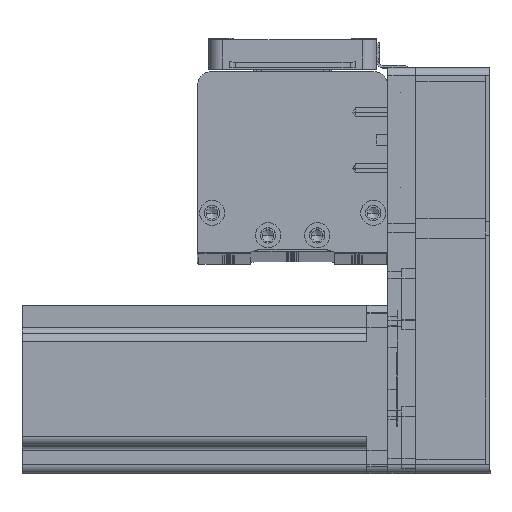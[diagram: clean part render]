
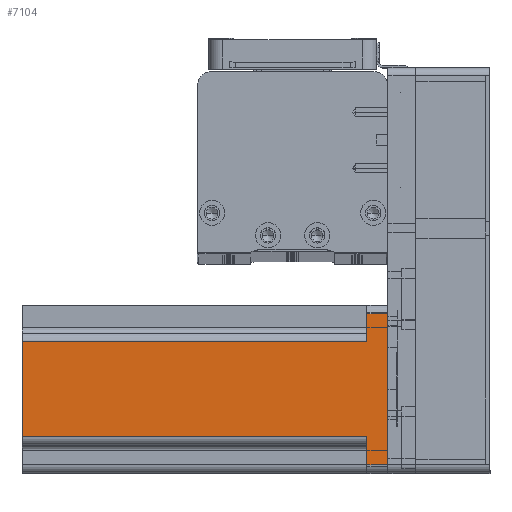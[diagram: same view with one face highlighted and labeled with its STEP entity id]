
A CAD part, top view. The second image highlights one B-rep face of the part: STEP entity #7104.
In plain terms, the highlighted planar face has unit normal (0, 0, 1) as drawn and (0, 1, 0) by its records, which use the part's own axes.
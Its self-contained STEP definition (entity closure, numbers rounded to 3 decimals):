
#1506 = LINE ( 'NONE', #42874, #47745 ) ;
#1839 = AXIS2_PLACEMENT_3D ( 'NONE', #47738, #20991, #52197 ) ;
#5105 = DIRECTION ( 'NONE',  ( -1., 0., 0. ) ) ;
#5916 = CARTESIAN_POINT ( 'NONE',  ( 30., 30., 0. ) ) ;
#5933 = LINE ( 'NONE', #16059, #16498 ) ;
#6462 = ORIENTED_EDGE ( 'NONE', *, *, #21462, .F. ) ;
#7104 = ADVANCED_FACE ( 'NONE', ( #29800 ), #25306, .F. ) ;
#7438 = EDGE_CURVE ( 'NONE', #50984, #22405, #17817, .T. ) ;
#8602 = LINE ( 'NONE', #41020, #41438 ) ;
#10445 = DIRECTION ( 'NONE',  ( -1., 0., 0. ) ) ;
#11262 = CARTESIAN_POINT ( 'NONE',  ( 17., 30., 130.7 ) ) ;
#11634 = LINE ( 'NONE', #14173, #45860 ) ;
#13226 = EDGE_CURVE ( 'NONE', #27347, #50984, #25882, .T. ) ;
#13963 = VECTOR ( 'NONE', #29578, 1000. ) ;
#14024 = ORIENTED_EDGE ( 'NONE', *, *, #7438, .T. ) ;
#14173 = CARTESIAN_POINT ( 'NONE',  ( 30., 30., 130.7 ) ) ;
#15234 = EDGE_LOOP ( 'NONE', ( #49638, #14024, #6462, #48928, #25208, #34895, #22312, #17222 ) ) ;
#16059 = CARTESIAN_POINT ( 'NONE',  ( 17., 30., 130.7 ) ) ;
#16498 = VECTOR ( 'NONE', #25068, 1000. ) ;
#17222 = ORIENTED_EDGE ( 'NONE', *, *, #51425, .T. ) ;
#17817 = LINE ( 'NONE', #45894, #52054 ) ;
#17842 = VERTEX_POINT ( 'NONE', #44180 ) ;
#18998 = EDGE_CURVE ( 'NONE', #44352, #24527, #5933, .T. ) ;
#19162 = CARTESIAN_POINT ( 'NONE',  ( 27., 30., 7.5 ) ) ;
#20586 = CARTESIAN_POINT ( 'NONE',  ( -20., 30., 7.5 ) ) ;
#20661 = EDGE_CURVE ( 'NONE', #35178, #17842, #32124, .T. ) ;
#20991 = DIRECTION ( 'NONE',  ( 0., -1., 0. ) ) ;
#21462 = EDGE_CURVE ( 'NONE', #44352, #22405, #11634, .T. ) ;
#21543 = DIRECTION ( 'NONE',  ( 0., 0., -1. ) ) ;
#22312 = ORIENTED_EDGE ( 'NONE', *, *, #24514, .T. ) ;
#22405 = VERTEX_POINT ( 'NONE', #30522 ) ;
#24514 = EDGE_CURVE ( 'NONE', #17842, #32543, #37071, .T. ) ;
#24527 = VERTEX_POINT ( 'NONE', #33143 ) ;
#25068 = DIRECTION ( 'NONE',  ( 0., 0., -1. ) ) ;
#25111 = DIRECTION ( 'NONE',  ( 0., 0., 1. ) ) ;
#25208 = ORIENTED_EDGE ( 'NONE', *, *, #35108, .F. ) ;
#25306 = PLANE ( 'NONE',  #1839 ) ;
#25506 = CARTESIAN_POINT ( 'NONE',  ( -27., 30., 0. ) ) ;
#25882 = LINE ( 'NONE', #20586, #13963 ) ;
#26322 = CARTESIAN_POINT ( 'NONE',  ( -17., 30., 7.5 ) ) ;
#27347 = VERTEX_POINT ( 'NONE', #50461 ) ;
#29578 = DIRECTION ( 'NONE',  ( 1., 0., 0. ) ) ;
#29800 = FACE_OUTER_BOUND ( 'NONE', #15234, .T. ) ;
#30522 = CARTESIAN_POINT ( 'NONE',  ( -17., 30., 130.7 ) ) ;
#32124 = LINE ( 'NONE', #48454, #54479 ) ;
#32268 = DIRECTION ( 'NONE',  ( -1., 0., 0. ) ) ;
#32543 = VERTEX_POINT ( 'NONE', #25506 ) ;
#32648 = DIRECTION ( 'NONE',  ( 0., 0., 1. ) ) ;
#33143 = CARTESIAN_POINT ( 'NONE',  ( 17., 30., 7.5 ) ) ;
#34895 = ORIENTED_EDGE ( 'NONE', *, *, #20661, .T. ) ;
#35108 = EDGE_CURVE ( 'NONE', #35178, #24527, #8602, .T. ) ;
#35178 = VERTEX_POINT ( 'NONE', #19162 ) ;
#37071 = LINE ( 'NONE', #5916, #56687 ) ;
#41020 = CARTESIAN_POINT ( 'NONE',  ( 20., 30., 7.5 ) ) ;
#41438 = VECTOR ( 'NONE', #32268, 1000. ) ;
#42874 = CARTESIAN_POINT ( 'NONE',  ( -27., 30., 130.7 ) ) ;
#44180 = CARTESIAN_POINT ( 'NONE',  ( 27., 30., 0. ) ) ;
#44352 = VERTEX_POINT ( 'NONE', #11262 ) ;
#45860 = VECTOR ( 'NONE', #5105, 1000. ) ;
#45894 = CARTESIAN_POINT ( 'NONE',  ( -17., 30., 130.7 ) ) ;
#47738 = CARTESIAN_POINT ( 'NONE',  ( 30., 30., 130.7 ) ) ;
#47745 = VECTOR ( 'NONE', #25111, 1000. ) ;
#48454 = CARTESIAN_POINT ( 'NONE',  ( 27., 30., 130.7 ) ) ;
#48928 = ORIENTED_EDGE ( 'NONE', *, *, #18998, .T. ) ;
#49638 = ORIENTED_EDGE ( 'NONE', *, *, #13226, .T. ) ;
#50461 = CARTESIAN_POINT ( 'NONE',  ( -27., 30., 7.5 ) ) ;
#50984 = VERTEX_POINT ( 'NONE', #26322 ) ;
#51425 = EDGE_CURVE ( 'NONE', #32543, #27347, #1506, .T. ) ;
#52054 = VECTOR ( 'NONE', #32648, 1000. ) ;
#52197 = DIRECTION ( 'NONE',  ( 1., 0., 0. ) ) ;
#54479 = VECTOR ( 'NONE', #21543, 1000. ) ;
#56687 = VECTOR ( 'NONE', #10445, 1000. ) ;
